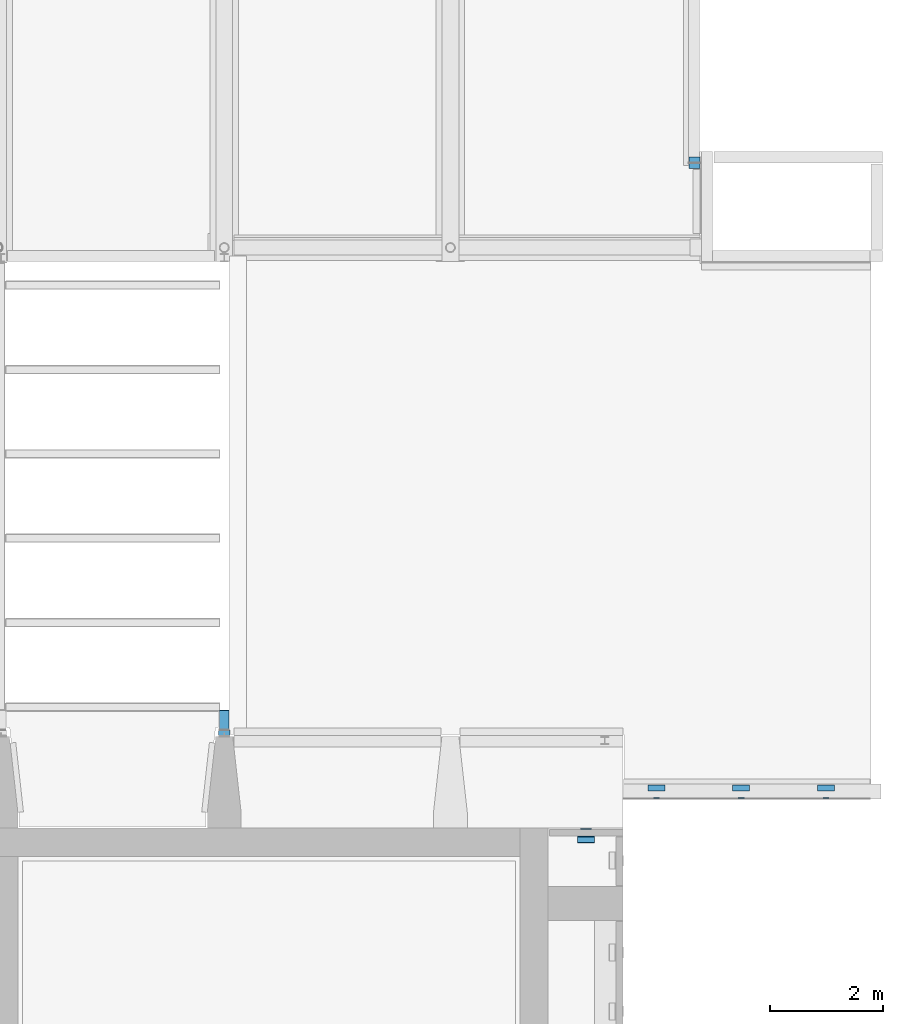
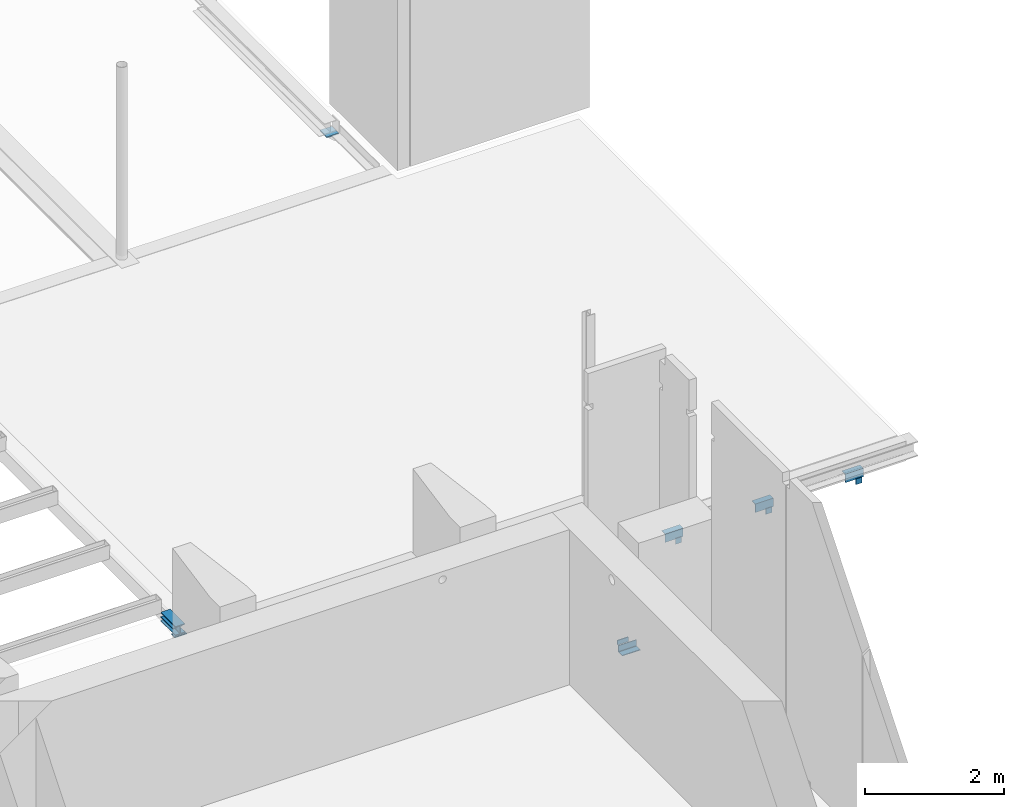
# One storey, part 22 of 31: 12 beams.
"""IFC2X3 building model written with IfcOpenShell, lengths in millimetres."""

from ifc_helpers import new_model, entity, si_unit, converted_unit, derived_unit, direction, frame, frame_2d, origin, origin_2d_with_axis, place, context, subcontext, project, spatial, polyline, circle_curve, parameter, trimmed, segment, composite_curve, rectangle, i_section, outline, extrude, clip, halfspace, source, transform, mapped, material, type_object, type_shapes, element, save


model = new_model("IFC2X3")

# Units and contexts
model_context = context("Model", 3, precision=0.01, world=origin(), true_north=direction((6.12303176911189e-17, 1.0)))
body_context = subcontext(model_context, "Body", "Model", "MODEL_VIEW")
ifc_project = project(units=[si_unit("LENGTHUNIT", "METRE", prefix="MILLI"), si_unit("AREAUNIT", "SQUARE_METRE"), si_unit("VOLUMEUNIT", "CUBIC_METRE"), converted_unit("PLANEANGLEUNIT", "DEGREE", entity("IfcRatioMeasure", 0.0174532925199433), si_unit("PLANEANGLEUNIT", "RADIAN"), dimensions=[0, 0, 0, 0, 0, 0, 0]), si_unit("MASSUNIT", "GRAM", prefix="KILO"), derived_unit("MASSDENSITYUNIT", [(si_unit("MASSUNIT", "GRAM", prefix="KILO"), 1), (si_unit("LENGTHUNIT", "METRE"), -3)]), si_unit("TIMEUNIT", "SECOND"), si_unit("FREQUENCYUNIT", "HERTZ"), si_unit("THERMODYNAMICTEMPERATUREUNIT", "DEGREE_CELSIUS"), derived_unit("THERMALTRANSMITTANCEUNIT", [(si_unit("MASSUNIT", "GRAM", prefix="KILO"), 1), (si_unit("THERMODYNAMICTEMPERATUREUNIT", "KELVIN"), -1), (si_unit("TIMEUNIT", "SECOND"), -3)]), derived_unit("VOLUMETRICFLOWRATEUNIT", [(si_unit("LENGTHUNIT", "METRE"), 3), (si_unit("TIMEUNIT", "SECOND"), -1)]), si_unit("ELECTRICCURRENTUNIT", "AMPERE"), si_unit("ELECTRICVOLTAGEUNIT", "VOLT"), si_unit("POWERUNIT", "WATT"), si_unit("FORCEUNIT", "NEWTON", prefix="KILO"), si_unit("ILLUMINANCEUNIT", "LUX"), si_unit("LUMINOUSFLUXUNIT", "LUMEN"), si_unit("LUMINOUSINTENSITYUNIT", "CANDELA"), derived_unit("USERDEFINED", [(si_unit("MASSUNIT", "GRAM", prefix="KILO"), -1), (si_unit("LENGTHUNIT", "METRE"), -2), (si_unit("TIMEUNIT", "SECOND"), 3), (si_unit("LUMINOUSFLUXUNIT", "LUMEN"), 1)]), derived_unit("LINEARVELOCITYUNIT", [(si_unit("LENGTHUNIT", "METRE"), 1), (si_unit("TIMEUNIT", "SECOND"), -1)]), si_unit("PRESSUREUNIT", "PASCAL"), derived_unit("USERDEFINED", [(si_unit("LENGTHUNIT", "METRE"), -2), (si_unit("MASSUNIT", "GRAM", prefix="KILO"), 1), (si_unit("TIMEUNIT", "SECOND"), -2)])], contexts=[model_context])

# Site, building, storey
site_placement = place(None, origin())
site = spatial("IfcSite", under=ifc_project, at=site_placement, Name="Default", CompositionType="ELEMENT")
building_placement = place(site_placement, origin())
building = spatial("IfcBuilding", under=site, at=building_placement, Name="niet gebruiken", CompositionType="ELEMENT")
storey_placement = place(building_placement, frame((0.0, 0.0, 12000.0)))
storey = spatial("IfcBuildingStorey", under=building, at=storey_placement, Name="03 derde verdieping", CompositionType="ELEMENT", Elevation=12000.0)

# Beams
ifc_material = material(Name="NLRS_h2_staal")
beam_type_1 = type_object("IfcBeamType", Name="NLRS_28.11_SF_WPB_stalen ligger HEB_gen:ligger HEB 160", PredefinedType="BEAM")
beam_1_placement = place(storey_placement, frame((151750.0, 34890.0, 1480.0), z_axis=(0.0, 0.0, 1.0), x_axis=(0.0, 1.0, 0.0)))
element("IfcBeam", 1, at=beam_1_placement, inside=storey, type_object=beam_type_1, material=ifc_material, Name="NLRS_28.11_SF_WPB_stalen ligger HEB_gen:ligger HEB 160", ObjectType="NLRS_28.11_SF_WPB_stalen ligger HEB_gen:ligger HEB 160", context=body_context, shape_type="Clipping", body=[
    clip(extrude(i_section(OverallWidth=159.999999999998, OverallDepth=160.0, WebThickness=7.99999999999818, FlangeThickness=13.0000000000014, FilletRadius=14.9999999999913, at=frame_2d((0.0, 0.0), x_axis=(0.0, 1.0))), frame((0.0, 0.0, -80.0), z_axis=(1.0, 0.0, 0.0), x_axis=(0.0, 0.0, -1.0)), (0.0, 0.0, 1.0), 428.337750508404), halfspace(frame((421.948516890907, -465.0, 22.963712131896), z_axis=(0.999390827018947, 0.0, 0.0348994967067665), x_axis=(0.0, 1.0, 0.0)), False)),
])
beam_type_2 = type_object("IfcBeamType", Name="ligger stripstaal RECT_200x20", PredefinedType="BEAM", material=ifc_material)
shared_shape_1 = source(origin(), body_context, "Body", "SweptSolid", [
    extrude(rectangle(XDim=199.999999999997, YDim=200.0, at=origin_2d_with_axis()), frame((0.0, 0.0, -10.0), z_axis=(0.0, 0.0, 1.0), x_axis=(-1.0, 0.0, 0.0)), (0.0, 0.0, 1.0), 20.0),
    extrude(rectangle(XDim=199.999999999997, YDim=200.0, at=origin_2d_with_axis()), frame((0.0, 0.0, -10.0), z_axis=(0.0, 0.0, 1.0), x_axis=(-1.0, 0.0, 0.0)), (0.0, 0.0, 1.0), 20.0),
])
type_shapes(beam_type_2, [shared_shape_1])
beam_2_placement = place(storey_placement, frame((160070.0, 45000.0, 1115.0), z_axis=(0.0, 0.0, 1.0), x_axis=(0.0, -1.0, 0.0)))
element("IfcBeam", 2, at=beam_2_placement, inside=storey, type_object=beam_type_2, material=ifc_material, Name="NLRS_28.11_SF_WPB_stalen ligger stripstaal_gen:ligger stripstaal RECT_200x20", ObjectType="ligger stripstaal RECT_200x20", context=body_context, shape_type="MappedRepresentation", body=[
    mapped(shared_shape_1, transform((0.0, 0.0, 0.0), scale=1.0)),
])
beam_type_3 = type_object("IfcBeamType", Name="ligger stripstaal RECT_160x10", PredefinedType="BEAM", material=ifc_material)
shared_shape_2 = source(origin(), body_context, "Body", "SweptSolid", [
    extrude(rectangle(XDim=345.0, YDim=159.999999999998, at=origin_2d_with_axis()), frame((151750.0, 35142.4999999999, 13390.0), z_axis=(0.0, 0.0, 1.0), x_axis=(0.0, -1.0, 0.0)), (0.0, 0.0, 1.0), 9.99999999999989),
    extrude(rectangle(XDim=345.0, YDim=159.999999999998, at=origin_2d_with_axis()), frame((151750.0, 35142.4999999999, 13390.0), z_axis=(0.0, 0.0, 1.0), x_axis=(0.0, -1.0, 0.0)), (0.0, 0.0, 1.0), 9.99999999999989),
])
type_shapes(beam_type_3, [shared_shape_2])
beam_3_placement = place(storey_placement, frame((0.0, 0.0, -12000.0)))
element("IfcBeam", 3, at=beam_3_placement, inside=storey, type_object=beam_type_3, material=ifc_material, Name="NLRS_28.11_SF_WPB_stalen ligger stripstaal_gen:ligger stripstaal RECT_160x10", ObjectType="ligger stripstaal RECT_160x10", context=body_context, shape_type="MappedRepresentation", body=[
    mapped(shared_shape_2, transform((0.0, 0.0, 0.0), scale=1.0)),
])
beam_type_4 = type_object("IfcBeamType", Name="ligger stripstaal RECT_100x15", PredefinedType="BEAM", material=ifc_material)
shared_shape_3 = source(origin(), body_context, "Body", "SweptSolid", [
    extrude(rectangle(XDim=199.999999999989, YDim=100.000000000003, at=frame_2d((0.0, -4.33431068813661e-12), x_axis=(1.0, 0.0))), frame((151750.0, 34920.0, 13300.0)), (0.0, 0.0, 1.0), 14.9999999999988),
    extrude(rectangle(XDim=199.999999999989, YDim=100.000000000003, at=frame_2d((0.0, -4.33431068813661e-12), x_axis=(1.0, 0.0))), frame((151750.0, 34920.0, 13300.0)), (0.0, 0.0, 1.0), 14.9999999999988),
])
type_shapes(beam_type_4, [shared_shape_3])
beam_4_placement = place(storey_placement, frame((0.0, 0.0, -12000.0)))
element("IfcBeam", 4, at=beam_4_placement, inside=storey, type_object=beam_type_4, material=ifc_material, Name="NLRS_28.11_SF_WPB_stalen ligger stripstaal_gen:ligger stripstaal RECT_100x15", ObjectType="ligger stripstaal RECT_100x15", context=body_context, shape_type="MappedRepresentation", body=[
    mapped(shared_shape_3, transform((0.0, 0.0, 0.0), scale=1.0)),
])
beam_type_5 = type_object("IfcBeamType", Name="NLRS_28.11_SF_WPB_stalen ligger hoekprofiel gelijkzijdig_gen:ligger gelijzijdig hoekprofiel LEQU_120x120x12_!", PredefinedType="BEAM")
beam_5_placement = place(storey_placement, frame((158300.0, 33070.0, 30.0), z_axis=(0.0, 0.0, 1.0), x_axis=(-1.0, 0.0, 0.0)))
element("IfcBeam", 5, at=beam_5_placement, inside=storey, type_object=beam_type_5, material=ifc_material, Name="NLRS_28.11_SF_WPB_stalen ligger hoekprofiel gelijkzijdig_gen:ligger gelijzijdig hoekprofiel LEQU_120x120x12_!", ObjectType="NLRS_28.11_SF_WPB_stalen ligger hoekprofiel gelijkzijdig_gen:ligger gelijzijdig hoekprofiel LEQU_120x120x12_!", context=body_context, shape_type="SweptSolid", body=[
    extrude(outline(composite_curve([segment(polyline([(-75.5555555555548, -44.4444444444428), (44.444444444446, -44.4444444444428)]), True, "CONTINUOUS"), segment(polyline([(44.444444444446, -44.4444444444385), (44.4444444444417, 75.5555555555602)]), True, "CONTINUOUS"), segment(polyline([(44.4444444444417, 75.5555555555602), (40.4444444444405, 75.5555555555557)]), True, "CONTINUOUS"), segment(trimmed(circle_curve(frame_2d((40.4444444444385, 69.5555555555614), x_axis=(0.0, 1.0)), 5.99999999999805), [parameter(0.0)], [parameter(90.0000000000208)], True, "PARAMETER"), True, "CONTINUOUS"), segment(polyline([(34.4444444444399, 69.5555555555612), (34.4444444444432, -22.4444444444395)]), True, "CONTINUOUS"), segment(trimmed(circle_curve(frame_2d((22.4444444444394, -22.4444444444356), x_axis=(1.0, 0.0)), 12.0000000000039), [parameter(270.000000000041)], [parameter(0.0)], True, "PARAMETER"), False, "CONTINUOUS"), segment(polyline([(22.4444444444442, -34.4444444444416), (-69.5555555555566, -34.4444444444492)]), True, "CONTINUOUS"), segment(trimmed(circle_curve(frame_2d((-69.5555555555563, -40.4444444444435), x_axis=(0.0, 1.0)), 5.99999999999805), [parameter(0.0)], [parameter(90.0000000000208)], True, "PARAMETER"), True, "CONTINUOUS"), segment(polyline([(-75.555555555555, -40.4444444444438), (-75.5555555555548, -44.4444444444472)]), True, "CONTINUOUS")], self_intersect=False)), frame((0.0, 24.4444444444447, -75.5555555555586), z_axis=(1.0, 0.0, 0.0), x_axis=(0.0, 0.0, -1.0)), (0.0, 0.0, 1.0), 300.000000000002),
])
beam_type_6 = type_object("IfcBeamType", Name="ligger stripstaal RECT_80x12 gedraaid_!", PredefinedType="BEAM", material=ifc_material)
shared_shape_4 = source(origin(), body_context, "Body", "SweptSolid", [
    extrude(rectangle(XDim=179.99999999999, YDim=12.0, at=origin_2d_with_axis()), frame((0.0, 0.0, -40.0), z_axis=(0.0, 0.0, 1.0), x_axis=(-1.0, 0.0, 0.0)), (0.0, 0.0, 1.0), 80.0),
    extrude(rectangle(XDim=179.99999999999, YDim=12.0, at=origin_2d_with_axis()), frame((0.0, 0.0, -40.0), z_axis=(0.0, 0.0, 1.0), x_axis=(-1.0, 0.0, 0.0)), (0.0, 0.0, 1.0), 80.0),
])
type_shapes(beam_type_6, [shared_shape_4])
beam_6_placement = place(storey_placement, frame((158150.0, 33216.0, -20.0)))
element("IfcBeam", 6, at=beam_6_placement, inside=storey, type_object=beam_type_6, material=ifc_material, Name="NLRS_28.11_SF_WPB_stalen ligger stripstaal_gen:ligger stripstaal RECT_80x12 gedraaid_!", ObjectType="ligger stripstaal RECT_80x12 gedraaid_!", context=body_context, shape_type="MappedRepresentation", body=[
    mapped(shared_shape_4, transform((0.0, 0.0, 0.0), scale=1.0)),
])
beam_type_7 = type_object("IfcBeamType", Name="ligger stripstaal RECT_100x10 gedraaid", PredefinedType="BEAM", material=ifc_material)
shared_shape_5 = source(origin(), body_context, "Body", "SweptSolid", [
    extrude(rectangle(XDim=100.0, YDim=9.99999999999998, at=origin_2d_with_axis()), frame((0.0, 0.0, -50.0), z_axis=(0.0, 0.0, 1.0), x_axis=(-1.0, 0.0, 0.0)), (0.0, 0.0, 1.0), 100.0),
    extrude(rectangle(XDim=100.0, YDim=9.99999999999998, at=origin_2d_with_axis()), frame((0.0, 0.0, -50.0), z_axis=(0.0, 0.0, 1.0), x_axis=(-1.0, 0.0, 0.0)), (0.0, 0.0, 1.0), 100.0),
])
type_shapes(beam_type_7, [shared_shape_5])
for number, where, z_axis, x_axis, name in (
    (7, (160895.0, 33765.0, 978.0), (0.0, 0.0, 1.0), (-1.0, 0.0, 0.0), "NLRS_28.11_SF_WPB_stalen ligger stripstaal_gen:ligger stripstaal RECT_100x10 gedraaid"),
    (8, (159395.0, 33765.0, 978.0), (0.0, 0.0, 1.0), (-1.0, 0.0, 0.0), "NLRS_28.11_SF_WPB_stalen ligger stripstaal_gen:ligger stripstaal RECT_100x10 gedraaid"),
    (9, (162395.0, 33765.0, 978.0), (0.0, 0.0, 1.0), (-1.0, 0.0, 0.0), "NLRS_28.11_SF_WPB_stalen ligger stripstaal_gen:ligger stripstaal RECT_100x10 gedraaid"),
):
    element("IfcBeam", number, at=place(storey_placement, frame(where, z_axis=z_axis, x_axis=x_axis)), inside=storey, type_object=beam_type_7, material=ifc_material, Name=name, ObjectType="ligger stripstaal RECT_100x10 gedraaid", context=body_context, shape_type="MappedRepresentation", body=[
        mapped(shared_shape_5, transform((0.0, 0.0, 0.0), scale=1.0)),
    ])
beam_type_8 = type_object("IfcBeamType", Name="NLRS_28.11_SF_WPB_stalen ligger hoekprofiel ongelijkzijdig_gen:ligger ongelijzijdig hoekprofiel LUEQ_150x100x10", PredefinedType="BEAM")
for number, where, z_axis, x_axis, name in (
    (10, (161045.0, 33913.36, 1068.0), (0.0, 0.0, 1.0), (-1.0, 0.0, 0.0), "NLRS_28.11_SF_WPB_stalen ligger hoekprofiel ongelijkzijdig_gen:ligger ongelijzijdig hoekprofiel LUEQ_150x100x10"),
    (11, (159545.0, 33913.36, 1068.0), (0.0, 0.0, 1.0), (-1.0, 0.0, 0.0), "NLRS_28.11_SF_WPB_stalen ligger hoekprofiel ongelijkzijdig_gen:ligger ongelijzijdig hoekprofiel LUEQ_150x100x10"),
    (12, (162545.0, 33913.36, 1068.0), (0.0, 0.0, 1.0), (-1.0, 0.0, 0.0), "NLRS_28.11_SF_WPB_stalen ligger hoekprofiel ongelijkzijdig_gen:ligger ongelijzijdig hoekprofiel LUEQ_150x100x10"),
):
    element("IfcBeam", number, at=place(storey_placement, frame(where, z_axis=z_axis, x_axis=x_axis)), inside=storey, type_object=beam_type_8, material=ifc_material, Name=name, ObjectType="NLRS_28.11_SF_WPB_stalen ligger hoekprofiel ongelijkzijdig_gen:ligger ongelijzijdig hoekprofiel LUEQ_150x100x10", context=body_context, shape_type="SweptSolid", body=[
        extrude(outline(composite_curve([segment(polyline([(-54.4444444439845, -62.2222222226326), (-50.9444444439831, -62.2222222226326)]), True, "CONTINUOUS"), segment(trimmed(circle_curve(frame_2d((-50.9444444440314, -55.7222222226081), x_axis=(0.0, -1.0)), 6.49999999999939), [parameter(0.0)], [parameter(90.0000000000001)], True, "PARAMETER"), True, "CONTINUOUS"), segment(polyline([(-44.4444444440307, -55.7222222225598), (-44.4444444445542, 14.7777777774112)]), True, "CONTINUOUS"), segment(trimmed(circle_curve(frame_2d((-31.4444444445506, 14.7777777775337), x_axis=(-1.0, 0.0)), 13.0000000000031), [parameter(270.000000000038)], [parameter(0.0)], True, "PARAMETER"), False, "CONTINUOUS"), segment(polyline([(-31.4444444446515, 27.7777777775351), (89.0555555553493, 27.7777777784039)]), True, "CONTINUOUS"), segment(trimmed(circle_curve(frame_2d((89.055555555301, 34.2777777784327), x_axis=(0.0, -1.0)), 6.4999999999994), [parameter(0.0)], [parameter(90.0000000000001)], True, "PARAMETER"), True, "CONTINUOUS"), segment(polyline([(95.5555555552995, 34.277777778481), (95.5555555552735, 37.7777777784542)]), True, "CONTINUOUS"), segment(polyline([(95.5555555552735, 37.7777777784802), (-54.444444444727, 37.7777777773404)]), True, "CONTINUOUS"), segment(polyline([(-54.444444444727, 37.7777777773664), (-54.4444444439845, -62.2222222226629)]), True, "CONTINUOUS")], self_intersect=False)), frame((0.0, -14.4177777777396, -54.4444444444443), z_axis=(1.0, 0.0, 0.0), x_axis=(0.0, 0.0, -1.0)), (0.0, 0.0, 1.0), 300.00000000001),
    ])

save(model, "model.ifc")
